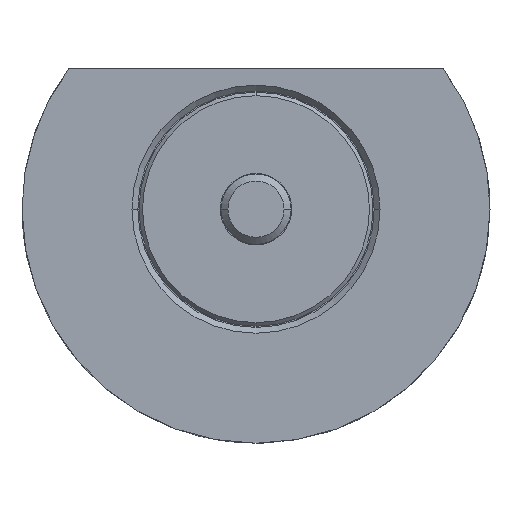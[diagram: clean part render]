
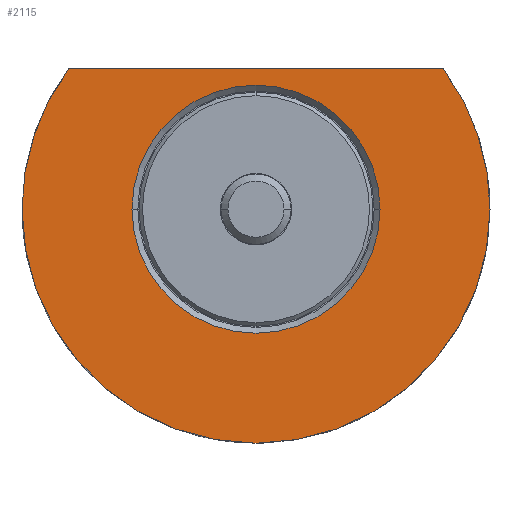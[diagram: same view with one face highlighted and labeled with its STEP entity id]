
A CAD part, front view. The second image highlights one B-rep face of the part: STEP entity #2115.
In plain terms, the highlighted planar face has unit normal (0, -1, 0).
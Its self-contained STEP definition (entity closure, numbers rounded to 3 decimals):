
#36 = DIRECTION ( 'NONE',  ( -1., 0., 0. ) ) ;
#61 = VECTOR ( 'NONE', #190, 1000. ) ;
#190 = DIRECTION ( 'NONE',  ( -1., 0., 0. ) ) ;
#227 = CIRCLE ( 'NONE', #1725, 10.6 ) ;
#365 = AXIS2_PLACEMENT_3D ( 'NONE', #1457, #2317, #36 ) ;
#367 = EDGE_CURVE ( 'NONE', #1341, #507, #1940, .T. ) ;
#414 = EDGE_CURVE ( 'NONE', #944, #2304, #227, .T. ) ;
#434 = EDGE_LOOP ( 'NONE', ( #1810, #2294 ) ) ;
#507 = VERTEX_POINT ( 'NONE', #1951 ) ;
#525 = ORIENTED_EDGE ( 'NONE', *, *, #367, .F. ) ;
#550 = CARTESIAN_POINT ( 'NONE',  ( 0., -10., 0. ) ) ;
#625 = VERTEX_POINT ( 'NONE', #2584 ) ;
#627 = EDGE_CURVE ( 'NONE', #625, #507, #1530, .T. ) ;
#706 = DIRECTION ( 'NONE',  ( 0., -1., 0. ) ) ;
#770 = CARTESIAN_POINT ( 'NONE',  ( 0., -10., 0. ) ) ;
#787 = CARTESIAN_POINT ( 'NONE',  ( 20., -10., 0. ) ) ;
#894 = AXIS2_PLACEMENT_3D ( 'NONE', #1900, #706, #902 ) ;
#897 = CARTESIAN_POINT ( 'NONE',  ( 0., -10., 0. ) ) ;
#902 = DIRECTION ( 'NONE',  ( 1., 0., 0. ) ) ;
#939 = DIRECTION ( 'NONE',  ( 0., 1., 0. ) ) ;
#944 = VERTEX_POINT ( 'NONE', #2351 ) ;
#985 = EDGE_LOOP ( 'NONE', ( #1442, #2220, #525, #1213 ) ) ;
#1028 = CARTESIAN_POINT ( 'NONE',  ( 0., -10., 0. ) ) ;
#1137 = CARTESIAN_POINT ( 'NONE',  ( -10.6, -10., 0. ) ) ;
#1213 = ORIENTED_EDGE ( 'NONE', *, *, #1444, .F. ) ;
#1341 = VERTEX_POINT ( 'NONE', #1941 ) ;
#1344 = AXIS2_PLACEMENT_3D ( 'NONE', #770, #2585, #2122 ) ;
#1409 = DIRECTION ( 'NONE',  ( -1., 0., 0. ) ) ;
#1423 = EDGE_CURVE ( 'NONE', #2304, #944, #2164, .T. ) ;
#1433 = VERTEX_POINT ( 'NONE', #787 ) ;
#1442 = ORIENTED_EDGE ( 'NONE', *, *, #1651, .F. ) ;
#1444 = EDGE_CURVE ( 'NONE', #1433, #1341, #1950, .T. ) ;
#1457 = CARTESIAN_POINT ( 'NONE',  ( 0., -10., 0. ) ) ;
#1488 = AXIS2_PLACEMENT_3D ( 'NONE', #1028, #2006, #2244 ) ;
#1504 = FACE_BOUND ( 'NONE', #434, .T. ) ;
#1530 = LINE ( 'NONE', #2354, #61 ) ;
#1605 = AXIS2_PLACEMENT_3D ( 'NONE', #550, #2400, #1409 ) ;
#1651 = EDGE_CURVE ( 'NONE', #625, #1433, #1657, .T. ) ;
#1657 = CIRCLE ( 'NONE', #365, 20. ) ;
#1725 = AXIS2_PLACEMENT_3D ( 'NONE', #897, #939, #2331 ) ;
#1810 = ORIENTED_EDGE ( 'NONE', *, *, #414, .T. ) ;
#1900 = CARTESIAN_POINT ( 'NONE',  ( -10.6, -10., 0. ) ) ;
#1915 = PLANE ( 'NONE',  #894 ) ;
#1940 = CIRCLE ( 'NONE', #1344, 20. ) ;
#1941 = CARTESIAN_POINT ( 'NONE',  ( -20., -10., 0. ) ) ;
#1950 = CIRCLE ( 'NONE', #1488, 20. ) ;
#1951 = CARTESIAN_POINT ( 'NONE',  ( -16.001, -10., 11.999 ) ) ;
#2006 = DIRECTION ( 'NONE',  ( 0., 1., 0. ) ) ;
#2089 = FACE_OUTER_BOUND ( 'NONE', #985, .T. ) ;
#2115 = ADVANCED_FACE ( 'NONE', ( #1504, #2089 ), #1915, .T. ) ;
#2122 = DIRECTION ( 'NONE',  ( -1., 0., 0. ) ) ;
#2164 = CIRCLE ( 'NONE', #1605, 10.6 ) ;
#2220 = ORIENTED_EDGE ( 'NONE', *, *, #627, .T. ) ;
#2244 = DIRECTION ( 'NONE',  ( -1., 0., 0. ) ) ;
#2294 = ORIENTED_EDGE ( 'NONE', *, *, #1423, .T. ) ;
#2304 = VERTEX_POINT ( 'NONE', #1137 ) ;
#2317 = DIRECTION ( 'NONE',  ( 0., 1., 0. ) ) ;
#2331 = DIRECTION ( 'NONE',  ( -1., 0., 0. ) ) ;
#2351 = CARTESIAN_POINT ( 'NONE',  ( 10.6, -10., 0. ) ) ;
#2354 = CARTESIAN_POINT ( 'NONE',  ( -10.6, -10., 11.999 ) ) ;
#2400 = DIRECTION ( 'NONE',  ( 0., 1., 0. ) ) ;
#2584 = CARTESIAN_POINT ( 'NONE',  ( 16.001, -10., 11.999 ) ) ;
#2585 = DIRECTION ( 'NONE',  ( 0., 1., 0. ) ) ;
